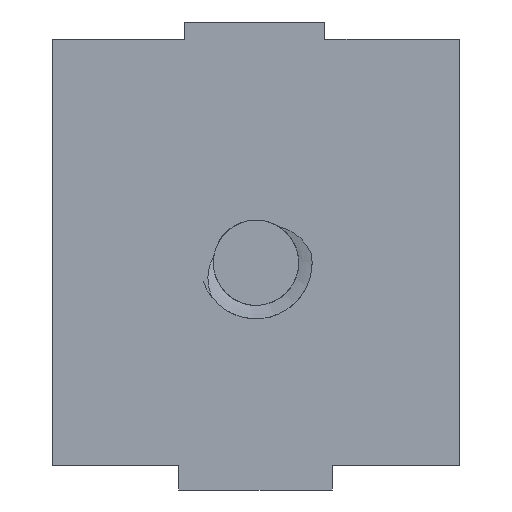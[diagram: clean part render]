
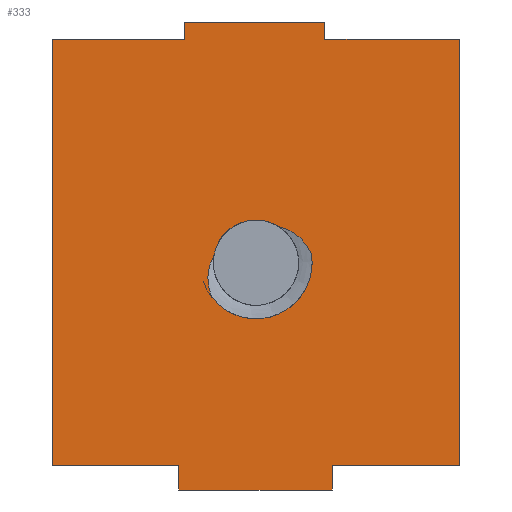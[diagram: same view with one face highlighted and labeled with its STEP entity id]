
A CAD part, front view. The second image highlights one B-rep face of the part: STEP entity #333.
In plain terms, the highlighted planar face has unit normal (0, -1, 0).
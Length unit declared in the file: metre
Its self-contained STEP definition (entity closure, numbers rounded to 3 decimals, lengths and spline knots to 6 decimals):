
#16=CIRCLE('',#366,0.0032);
#17=CIRCLE('',#367,0.0042);
#20=B_SPLINE_CURVE_WITH_KNOTS('',3,(#502,#503,#504,#505,#506),
 .UNSPECIFIED.,.F.,.F.,(4,1,4),(0.,0.001585,
0.00317),.UNSPECIFIED.);
#21=B_SPLINE_CURVE_WITH_KNOTS('',3,(#511,#512,#513,#514,#515),
 .UNSPECIFIED.,.F.,.F.,(4,1,4),(0.,0.001599,0.003198),
 .UNSPECIFIED.);
#36=ORIENTED_EDGE('',*,*,#132,.T.);
#37=ORIENTED_EDGE('',*,*,#133,.F.);
#38=ORIENTED_EDGE('',*,*,#134,.T.);
#39=ORIENTED_EDGE('',*,*,#135,.T.);
#40=ORIENTED_EDGE('',*,*,#127,.T.);
#41=ORIENTED_EDGE('',*,*,#136,.T.);
#42=ORIENTED_EDGE('',*,*,#130,.F.);
#43=ORIENTED_EDGE('',*,*,#137,.F.);
#44=ORIENTED_EDGE('',*,*,#138,.F.);
#45=ORIENTED_EDGE('',*,*,#139,.T.);
#46=ORIENTED_EDGE('',*,*,#140,.F.);
#47=ORIENTED_EDGE('',*,*,#141,.F.);
#48=ORIENTED_EDGE('',*,*,#142,.F.);
#49=ORIENTED_EDGE('',*,*,#143,.F.);
#50=ORIENTED_EDGE('',*,*,#144,.F.);
#51=ORIENTED_EDGE('',*,*,#145,.F.);
#127=EDGE_CURVE('',#173,#175,#207,.T.);
#130=EDGE_CURVE('',#178,#179,#210,.T.);
#132=EDGE_CURVE('',#180,#181,#212,.T.);
#133=EDGE_CURVE('',#182,#181,#213,.T.);
#134=EDGE_CURVE('',#182,#183,#214,.T.);
#135=EDGE_CURVE('',#183,#173,#215,.T.);
#136=EDGE_CURVE('',#175,#179,#216,.T.);
#137=EDGE_CURVE('',#184,#178,#217,.T.);
#138=EDGE_CURVE('',#185,#184,#218,.T.);
#139=EDGE_CURVE('',#185,#186,#219,.T.);
#140=EDGE_CURVE('',#187,#186,#220,.T.);
#141=EDGE_CURVE('',#180,#187,#221,.T.);
#142=EDGE_CURVE('',#188,#189,#20,.T.);
#143=EDGE_CURVE('',#190,#188,#16,.F.);
#144=EDGE_CURVE('',#191,#190,#21,.T.);
#145=EDGE_CURVE('',#189,#191,#17,.F.);
#173=VERTEX_POINT('',#468);
#175=VERTEX_POINT('',#472);
#178=VERTEX_POINT('',#479);
#179=VERTEX_POINT('',#481);
#180=VERTEX_POINT('',#485);
#181=VERTEX_POINT('',#486);
#182=VERTEX_POINT('',#488);
#183=VERTEX_POINT('',#490);
#184=VERTEX_POINT('',#494);
#185=VERTEX_POINT('',#496);
#186=VERTEX_POINT('',#498);
#187=VERTEX_POINT('',#500);
#188=VERTEX_POINT('',#507);
#189=VERTEX_POINT('',#508);
#190=VERTEX_POINT('',#510);
#191=VERTEX_POINT('',#516);
#207=LINE('',#473,#243);
#210=LINE('',#480,#246);
#212=LINE('',#484,#248);
#213=LINE('',#487,#249);
#214=LINE('',#489,#250);
#215=LINE('',#491,#251);
#216=LINE('',#492,#252);
#217=LINE('',#493,#253);
#218=LINE('',#495,#254);
#219=LINE('',#497,#255);
#220=LINE('',#499,#256);
#221=LINE('',#501,#257);
#243=VECTOR('',#391,1.);
#246=VECTOR('',#396,1.);
#248=VECTOR('',#400,1.);
#249=VECTOR('',#401,1.);
#250=VECTOR('',#402,1.);
#251=VECTOR('',#403,1.);
#252=VECTOR('',#404,1.);
#253=VECTOR('',#405,1.);
#254=VECTOR('',#406,1.);
#255=VECTOR('',#407,1.);
#256=VECTOR('',#408,1.);
#257=VECTOR('',#409,1.);
#278=EDGE_LOOP('',(#36,#37,#38,#39,#40,#41,#42,#43,#44,#45,#46,#47));
#279=EDGE_LOOP('',(#48,#49,#50,#51));
#298=FACE_BOUND('',#278,.T.);
#299=FACE_BOUND('',#279,.T.);
#318=PLANE('',#365);
#333=ADVANCED_FACE('',(#298,#299),#318,.F.);
#365=AXIS2_PLACEMENT_3D('',#483,#398,#399);
#366=AXIS2_PLACEMENT_3D('',#509,#410,#411);
#367=AXIS2_PLACEMENT_3D('',#517,#412,#413);
#391=DIRECTION('',(-1.,0.,0.));
#396=DIRECTION('',(-1.,0.,0.));
#398=DIRECTION('',(0.,1.,0.));
#399=DIRECTION('',(-1.,0.,0.));
#400=DIRECTION('',(-1.,0.,0.));
#401=DIRECTION('',(0.,0.,-1.));
#402=DIRECTION('',(-1.,0.,0.));
#403=DIRECTION('',(0.,0.,-1.));
#404=DIRECTION('',(0.,0.,-1.));
#405=DIRECTION('',(0.,0.,1.));
#406=DIRECTION('',(-1.,0.,0.));
#407=DIRECTION('',(0.,0.,1.));
#408=DIRECTION('',(-1.,0.,0.));
#409=DIRECTION('',(0.,0.,-1.));
#410=DIRECTION('',(0.,1.,0.));
#411=DIRECTION('',(0.,0.,1.));
#412=DIRECTION('',(0.,1.,0.));
#413=DIRECTION('',(0.,0.,1.));
#468=CARTESIAN_POINT('',(-0.005314,0.04,0.0167));
#472=CARTESIAN_POINT('',(-0.0152,0.04,0.0167));
#473=CARTESIAN_POINT('',(0.,0.04,0.0167));
#479=CARTESIAN_POINT('',(-0.00577,0.04,-0.0152));
#480=CARTESIAN_POINT('',(0.,0.04,-0.0152));
#481=CARTESIAN_POINT('',(-0.0152,0.04,-0.0152));
#483=CARTESIAN_POINT('',(0.,0.04,0.));
#484=CARTESIAN_POINT('',(0.,0.04,0.0167));
#485=CARTESIAN_POINT('',(0.0152,0.04,0.0167));
#486=CARTESIAN_POINT('',(0.005157,0.04,0.0167));
#487=CARTESIAN_POINT('',(0.005157,0.04,0.018));
#488=CARTESIAN_POINT('',(0.005157,0.04,0.018));
#489=CARTESIAN_POINT('',(0.,0.04,0.018));
#490=CARTESIAN_POINT('',(-0.005314,0.04,0.018));
#491=CARTESIAN_POINT('',(-0.005314,0.04,0.018));
#492=CARTESIAN_POINT('',(-0.0152,0.04,0.));
#493=CARTESIAN_POINT('',(-0.00577,0.04,-0.017));
#494=CARTESIAN_POINT('',(-0.00577,0.04,-0.017));
#495=CARTESIAN_POINT('',(0.,0.04,-0.017));
#496=CARTESIAN_POINT('',(0.005694,0.04,-0.017));
#497=CARTESIAN_POINT('',(0.005694,0.04,-0.017));
#498=CARTESIAN_POINT('',(0.005694,0.04,-0.0152));
#499=CARTESIAN_POINT('',(0.,0.04,-0.0152));
#500=CARTESIAN_POINT('',(0.0152,0.04,-0.0152));
#501=CARTESIAN_POINT('',(0.0152,0.04,0.));
#502=CARTESIAN_POINT('',(-0.003166,0.04,0.000463));
#503=CARTESIAN_POINT('',(-0.003435,0.04,-0.000001));
#504=CARTESIAN_POINT('',(-0.003729,0.04,-0.00105));
#505=CARTESIAN_POINT('',(-0.003498,0.04,-0.002112));
#506=CARTESIAN_POINT('',(-0.003294,0.04,-0.002606));
#507=CARTESIAN_POINT('',(-0.003166,0.04,0.000463));
#508=CARTESIAN_POINT('',(-0.003294,0.04,-0.002606));
#509=CARTESIAN_POINT('',(0.,0.04,0.));
#510=CARTESIAN_POINT('',(0.001754,0.04,0.002677));
#511=CARTESIAN_POINT('',(0.004141,0.04,0.000699));
#512=CARTESIAN_POINT('',(0.003902,0.04,0.001181));
#513=CARTESIAN_POINT('',(0.003256,0.04,0.002059));
#514=CARTESIAN_POINT('',(0.002283,0.04,0.00257));
#515=CARTESIAN_POINT('',(0.001754,0.04,0.002677));
#516=CARTESIAN_POINT('',(0.004141,0.04,0.000699));
#517=CARTESIAN_POINT('',(0.,0.04,0.));
